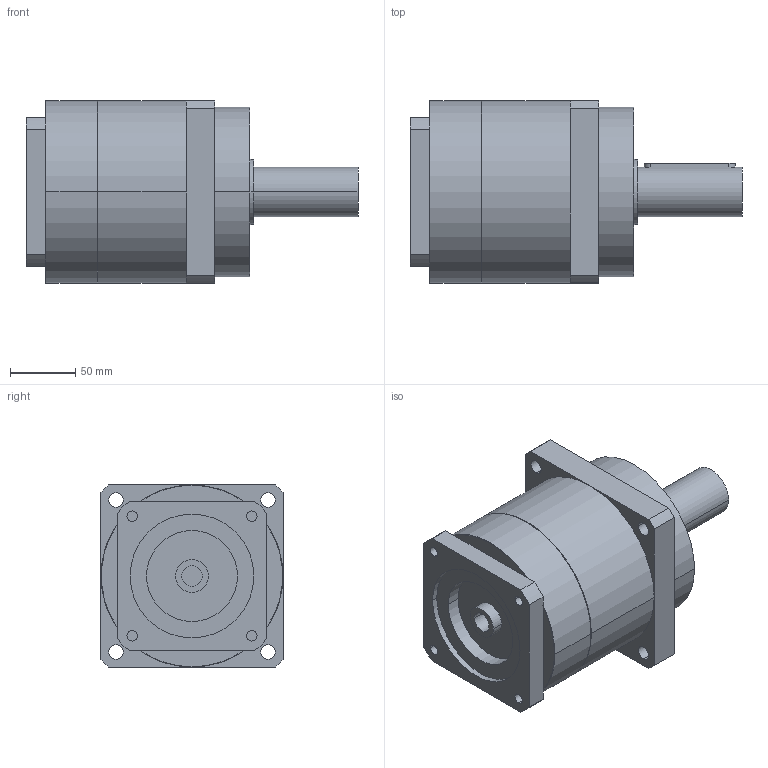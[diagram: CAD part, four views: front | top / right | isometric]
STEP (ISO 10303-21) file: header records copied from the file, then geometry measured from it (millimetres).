
FILE_DESCRIPTION(('CoCreate Modeling STEP Export'),'2;1');
FILE_NAME('GPR150_ig-3-4-5-7_38_B5_15.87_P10.stp','2014-08-19T16:41:36',(''),(''),'CoCreate Modeling STEP processor for AP214 (Solid Model)','CoCreate Modeling 16.00C 25-Feb-2009 (C) Parametric Technology GmbH','');
FILE_SCHEMA(('AUTOMOTIVE_DESIGN { 1 0 10303 214 1 1 1 1 }'));
Length unit declared in the file: millimetre
Products named in the file (2): GPR150_ig-3-4-5-7_38_B5_15.87_P10
Assembly tree (1 placements, depth 2):
  GPR150_ig-3-4-5-7_38_B5_15.87_P10
    GPR150_ig-3-4-5-7_38_B5_15.87_P10
Bounding box: 255 x 140 x 140 mm (x, y, z)
Volume: 2656840.3 mm3; surface area: 138268.1 mm2
Topology: 1 solids, 1 shells, 89 faces, 225 edges, 149 vertices
Faces by surface type: cylinder 46, plane 37, cone 6
Entity records: 2348 total; most frequent: ORIENTED_EDGE 446, CARTESIAN_POINT 430, DIRECTION 328, EDGE_CURVE 223, VERTEX_POINT 149, AXIS2_PLACEMENT_3D 119, EDGE_LOOP 110, VECTOR 90
